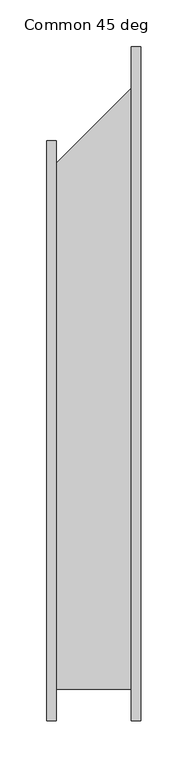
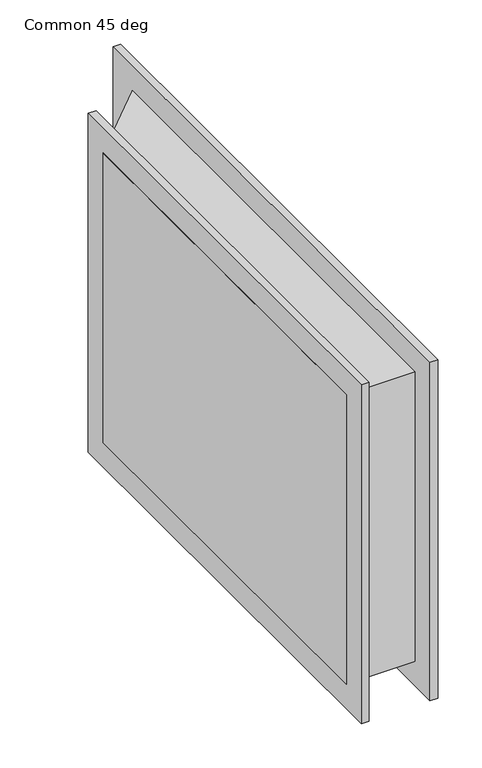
"""IFC4 building model written with IfcOpenShell, lengths in millimetres: duct fitting geometry, 041_角型置換 - フランジ - 角度 : Common 45 deg."""

from ifc_helpers import new_model, si_unit, frame, origin, place, context, project, spatial, polyline, outline, extrude, source, transform, mapped, element, save


def common_45_deg_b0ac0206(model_context):
    return source(origin(), model_context, "Body", "SweptSolid", [
        extrude(outline(polyline([(0.0, -275.0), (0.0, 275.0), (100.0, 375.0), (100.0, -275.0), (0.0, -275.0)])), frame((0.0, 0.0, -200.0), z_axis=(0.0, 0.0, 1.0), x_axis=(1.0, 0.0, 0.0)), (0.0, 0.0, 1.0), 400.0),
        extrude(outline(polyline([(100.0, 409.0), (100.0, -309.0), (90.0, -309.0), (90.0, 409.0), (100.0, 409.0)])), frame((0.0, 0.0, -234.0), z_axis=(0.0, 0.0, 1.0), x_axis=(1.0, 0.0, 0.0)), (0.0, 0.0, 1.0), 468.0),
        extrude(outline(polyline([(10.0, 309.0), (10.0, -309.0), (0.0, -309.0), (0.0, 309.0), (10.0, 309.0)])), frame((0.0, 0.0, -234.0), z_axis=(0.0, 0.0, 1.0), x_axis=(1.0, 0.0, 0.0)), (0.0, 0.0, 1.0), 468.0),
    ])


if __name__ == "__main__":
    model = new_model("IFC4")
    model_context = context("Model", 3, world=origin())
    ifc_project = project(units=[si_unit("LENGTHUNIT", "METRE", prefix="MILLI")], contexts=[model_context])
    site = spatial("IfcSite", under=ifc_project)
    building = spatial("IfcBuilding", under=site)
    placement = place(None, origin())
    common_45_deg_shape = common_45_deg_b0ac0206(model_context)
    element("IfcDuctFitting", 1, ObjectType="041_角型置換 - フランジ - 角度 : Common 45 deg", at=placement, inside=building, context=model_context, shape_type="MappedRepresentation", body=[
        mapped(common_45_deg_shape, transform((0.0, 0.0, 0.0), x_axis=(1.0, 0.0, 0.0), y_axis=(0.0, 1.0, 0.0), z_axis=(0.0, 0.0, 1.0))),
    ])
    save(model, "model.ifc")
